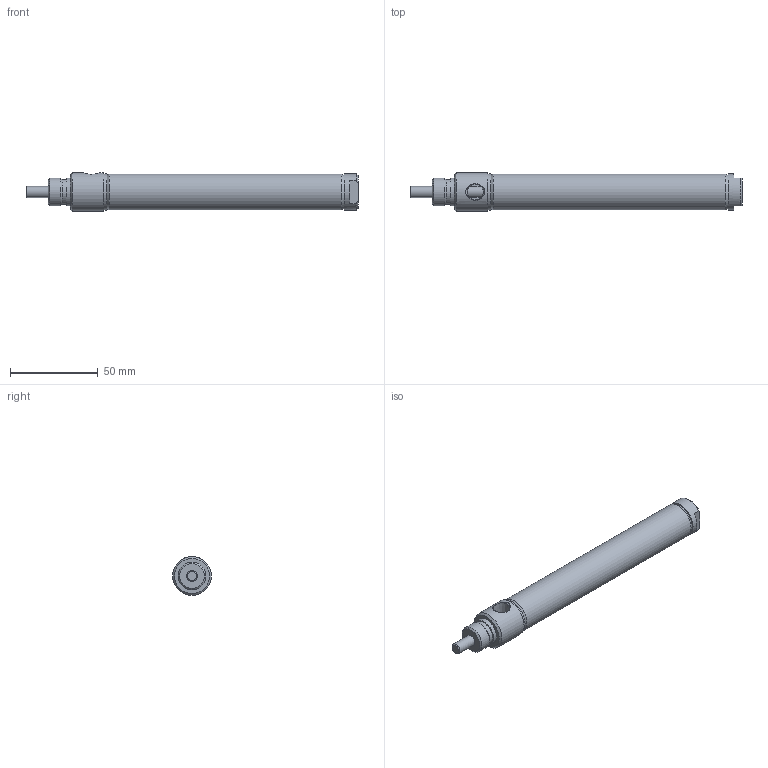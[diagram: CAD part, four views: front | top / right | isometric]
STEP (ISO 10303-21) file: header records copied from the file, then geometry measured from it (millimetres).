
FILE_DESCRIPTION( ( 'STEP AP214' ), '1' );
FILE_NAME( 'p:/temp/worker_471/temp/exporttempdir_3592_94_hwO55/format_0/0750D01-04A-03.stp', '2020-05-07T14:31:52', ( 'License CC BY-ND 4.0' ), ( 'CADENAS' ), ' ', 'PARTsolutions', ' ' );
FILE_SCHEMA( ( 'AUTOMOTIVE_DESIGN { 1 0 10303 214 1 1 1 1 }' ) );
Length unit declared in the file: inch
Products named in the file (3): 0750D01-04A-03; _0750D01-04A-030b; _0750D01-04A-030r
Assembly tree (2 placements, depth 2):
  0750D01-04A-03
    _0750D01-04A-030b
    _0750D01-04A-030r
Bounding box: 189.71 x 22.23 x 22.23 mm (x, y, z)
Volume: 30479.7 mm3; surface area: 26572.9 mm2
Topology: 2 solids, 2 shells, 44 faces, 85 edges, 54 vertices
Faces by surface type: plane 19, cone 13, cylinder 12
Full cylindrical faces by diameter (mm): 6.35 x3, 14.196 x1, 15.85 x1, 15.875 x1, 19.05 x2, 20.472 x1, 20.65 x2, 22.225 x1
Entity records: 1546 total; most frequent: CARTESIAN_POINT 317, DIRECTION 186, ORIENTED_EDGE 122, AXIS2_PLACEMENT_3D 88, EDGE_LOOP 78, EDGE_CURVE 61, FACE_OUTER_BOUND 56, VERTEX_POINT 51
